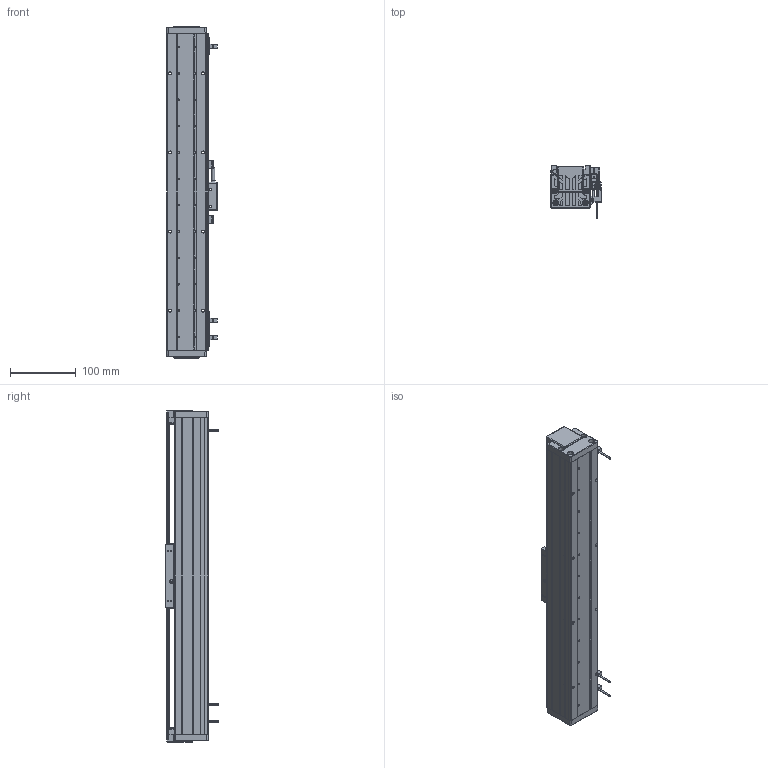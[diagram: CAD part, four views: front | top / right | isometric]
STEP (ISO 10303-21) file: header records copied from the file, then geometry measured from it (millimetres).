
FILE_DESCRIPTION (( 'STEP AP203' ), '1' );
FILE_NAME ('DA-A60-B1-T340-C010-0.2 眻盄萇儂.STEP', '2025-08-13T01:55:26', ( '' ), ( '' ), 'SwSTEP 2.0', 'SolidWorks 2019', '' );
FILE_SCHEMA (( 'CONFIG_CONTROL_DESIGN' ));
Length unit declared in the file: millimetre
Products named in the file (21): 复件 DA60-DMT-DTJ-00 读数头支架^DA-A60-B1-T-C010-0.2-N 直线电机; 葩璃 DA60-HK-DP-01 結え^AU60-V 幗紩賑怢; 复件 DA-A60-GYP-DMT-00 光电感应片^DA-A60-B1-T-C010-0.2-N 直线电机(默认); 复件 DA60-DG-H-N-00 端盖^DA-A60-B1-T-C010-0.2-N 直线电机; 复件 XD-U-02  磁栅尺^DA-A60-B1-T-C010-0.2-N 直线电机; DA60-YT-B1-HT-B-01 珨极趙賑雄怢啣; AU60-L 菁釱絳寢; 复件 六角薄螺母 M3^DA-A60-B1-T-C010-0.2-N 直线电机(GB_FASTENER_NUT_STNAB M3-C); DA60-B1-HT-B-03 賑雄怢啣; 复件 纯铜油杯 6x6mm^AU60-V 滚珠滑台; IU-AU60-L-00 菁釱(480); 葩璃 PM-T45^DA-A60-B1-T-C010-0.2-N 眻盄萇儂; AU60-V 幗紩賑怢; 复件 DA60-B1-GT-00 滑块钢轨^DA60-YT-B1-HT-B-01 一体化滑动台板; 葩璃 AKM01-W030-TRL^DA-A60-B1-T-C010-0.2-N 眻盄萇儂; 复件 BAKM01-W030-C1-TP-0.2 直线电机动子^DA-A60-B1-T-C010-0.2-N 直线电机; DA-A60-B1-T340-C010-0.2 眻盄萇儂; 葩璃 DMT-010 1米m 0.2M^DA-A60-B1-T-C010-0.2-N 眻盄萇儂; 复件 DA60-GT-T-00 底座钢轨^AU60-L 底座导轨; DA60-T-002-00  裔啣; 复件 DA60-XJ-00 橡胶挡块^DA-A60-B1-T-C010-0.2-N 直线电机
Assembly tree (33 placements, depth 4):
  DA-A60-B1-T340-C010-0.2 眻盄萇儂
    AU60-L 菁釱絳寢
      IU-AU60-L-00 菁釱(480)
      复件 DA60-GT-T-00 底座钢轨^AU60-L 底座导轨  x2
    AU60-V 幗紩賑怢
      DA60-YT-B1-HT-B-01 珨极趙賑雄怢啣
        DA60-B1-HT-B-03 賑雄怢啣
        复件 DA60-B1-GT-00 滑块钢轨^DA60-YT-B1-HT-B-01 一体化滑动台板  x2
      葩璃 DA60-HK-DP-01 結え^AU60-V 幗紩賑怢  x2
      复件 纯铜油杯 6x6mm^AU60-V 滚珠滑台
    复件 DA-A60-GYP-DMT-00 光电感应片^DA-A60-B1-T-C010-0.2-N 直线电机(默认)  x2
    复件 DA60-DMT-DTJ-00 读数头支架^DA-A60-B1-T-C010-0.2-N 直线电机
    葩璃 DMT-010 1米m 0.2M^DA-A60-B1-T-C010-0.2-N 眻盄萇儂
    复件 BAKM01-W030-C1-TP-0.2 直线电机动子^DA-A60-B1-T-C010-0.2-N 直线电机
    复件 DA60-XJ-00 橡胶挡块^DA-A60-B1-T-C010-0.2-N 直线电机  x2
    复件 DA60-DG-H-N-00 端盖^DA-A60-B1-T-C010-0.2-N 直线电机  x2
    DA60-T-002-00  裔啣
    葩璃 AKM01-W030-TRL^DA-A60-B1-T-C010-0.2-N 眻盄萇儂
    葩璃 PM-T45^DA-A60-B1-T-C010-0.2-N 眻盄萇儂  x3
    复件 XD-U-02  磁栅尺^DA-A60-B1-T-C010-0.2-N 直线电机
    复件 六角薄螺母 M3^DA-A60-B1-T-C010-0.2-N 直线电机(GB_FASTENER_NUT_STNAB M3-C)  x6
Bounding box: 76.95 x 80 x 504 mm (x, y, z)
Volume: 1101441.6 mm3; surface area: 404641.9 mm2
Topology: 35 solids, 37 shells, 2719 faces, 6848 edges, 4117 vertices
Faces by surface type: cylinder 994, plane 891, bspline 577, cone 248, torus 8, sphere 1
Entity records: 65117 total; most frequent: CARTESIAN_POINT 21222, ORIENTED_EDGE 8952, DIRECTION 8233, EDGE_CURVE 4476, AXIS2_PLACEMENT_3D 2970, VERTEX_POINT 2788, LINE 2293, VECTOR 2293
